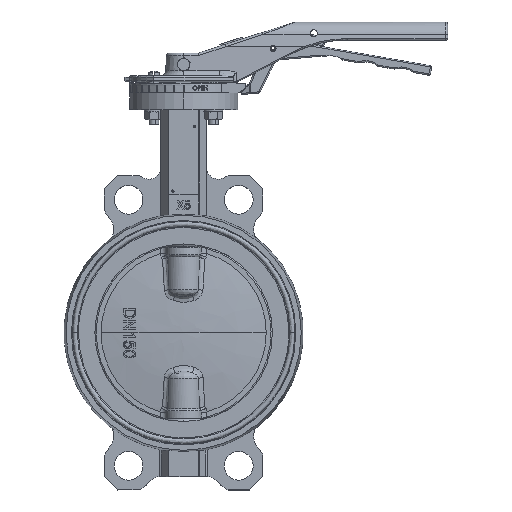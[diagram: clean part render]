
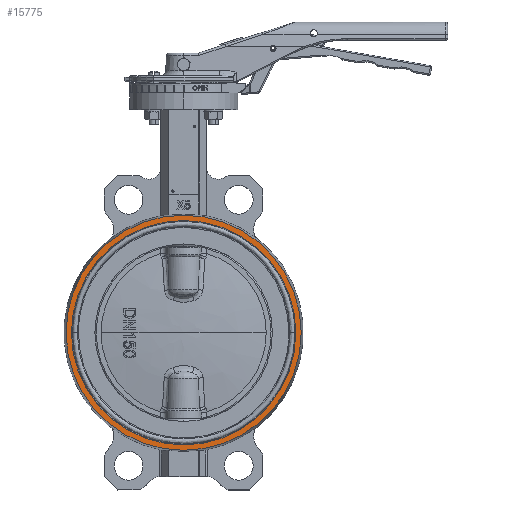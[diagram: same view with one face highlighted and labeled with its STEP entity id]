
A CAD part, top view. The second image highlights one B-rep face of the part: STEP entity #15775.
In plain terms, the highlighted planar face has unit normal (0, 0, 1).
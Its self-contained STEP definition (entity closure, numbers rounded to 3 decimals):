
#1021 = DIRECTION ( 'NONE',  ( 1., 0., 0. ) ) ;
#3687 = CARTESIAN_POINT ( 'NONE',  ( -93.5, 0., 27.75 ) ) ;
#4088 = CIRCLE ( 'NONE', #21714, 93.5 ) ;
#4787 = VERTEX_POINT ( 'NONE', #38188 ) ;
#5134 = DIRECTION ( 'NONE',  ( 1., 0., 0. ) ) ;
#8747 = AXIS2_PLACEMENT_3D ( 'NONE', #21088, #10556, #5134 ) ;
#9499 = EDGE_LOOP ( 'NONE', ( #32520, #63827 ) ) ;
#9821 = FACE_BOUND ( 'NONE', #9499, .T. ) ;
#10556 = DIRECTION ( 'NONE',  ( 0., 0., 1. ) ) ;
#11220 = DIRECTION ( 'NONE',  ( 0., 0., -1. ) ) ;
#15775 = ADVANCED_FACE ( 'NONE', ( #9821, #49711 ), #26095, .T. ) ;
#20922 = DIRECTION ( 'NONE',  ( 0., 1., 0. ) ) ;
#21088 = CARTESIAN_POINT ( 'NONE',  ( -99.176, -99.176, 27.75 ) ) ;
#21714 = AXIS2_PLACEMENT_3D ( 'NONE', #36779, #11220, #1021 ) ;
#21913 = CIRCLE ( 'NONE', #38907, 98. ) ;
#21954 = CIRCLE ( 'NONE', #46000, 93.5 ) ;
#22210 = VERTEX_POINT ( 'NONE', #34562 ) ;
#24761 = EDGE_CURVE ( 'NONE', #56572, #22210, #4088, .T. ) ;
#26095 = PLANE ( 'NONE',  #8747 ) ;
#26664 = DIRECTION ( 'NONE',  ( 1., 0., 0. ) ) ;
#27120 = CARTESIAN_POINT ( 'NONE',  ( 0., 98., 27.75 ) ) ;
#27372 = EDGE_LOOP ( 'NONE', ( #31518, #27515 ) ) ;
#27515 = ORIENTED_EDGE ( 'NONE', *, *, #62644, .T. ) ;
#29846 = DIRECTION ( 'NONE',  ( 0., 1., 0. ) ) ;
#31518 = ORIENTED_EDGE ( 'NONE', *, *, #49877, .T. ) ;
#32103 = DIRECTION ( 'NONE',  ( 0., 0., -1. ) ) ;
#32520 = ORIENTED_EDGE ( 'NONE', *, *, #34964, .T. ) ;
#34562 = CARTESIAN_POINT ( 'NONE',  ( 93.5, 0., 27.75 ) ) ;
#34964 = EDGE_CURVE ( 'NONE', #22210, #56572, #21954, .T. ) ;
#36779 = CARTESIAN_POINT ( 'NONE',  ( 0., 0., 27.75 ) ) ;
#38188 = CARTESIAN_POINT ( 'NONE',  ( 0., -98., 27.75 ) ) ;
#38907 = AXIS2_PLACEMENT_3D ( 'NONE', #45261, #55300, #29846 ) ;
#40440 = CIRCLE ( 'NONE', #45973, 98. ) ;
#45261 = CARTESIAN_POINT ( 'NONE',  ( 0., 0., 27.75 ) ) ;
#45973 = AXIS2_PLACEMENT_3D ( 'NONE', #52050, #52499, #20922 ) ;
#46000 = AXIS2_PLACEMENT_3D ( 'NONE', #57571, #32103, #26664 ) ;
#49711 = FACE_OUTER_BOUND ( 'NONE', #27372, .T. ) ;
#49877 = EDGE_CURVE ( 'NONE', #63376, #4787, #21913, .T. ) ;
#52050 = CARTESIAN_POINT ( 'NONE',  ( 0., 0., 27.75 ) ) ;
#52499 = DIRECTION ( 'NONE',  ( 0., 0., 1. ) ) ;
#55300 = DIRECTION ( 'NONE',  ( 0., 0., 1. ) ) ;
#56572 = VERTEX_POINT ( 'NONE', #3687 ) ;
#57571 = CARTESIAN_POINT ( 'NONE',  ( 0., 0., 27.75 ) ) ;
#62644 = EDGE_CURVE ( 'NONE', #4787, #63376, #40440, .T. ) ;
#63376 = VERTEX_POINT ( 'NONE', #27120 ) ;
#63827 = ORIENTED_EDGE ( 'NONE', *, *, #24761, .T. ) ;
